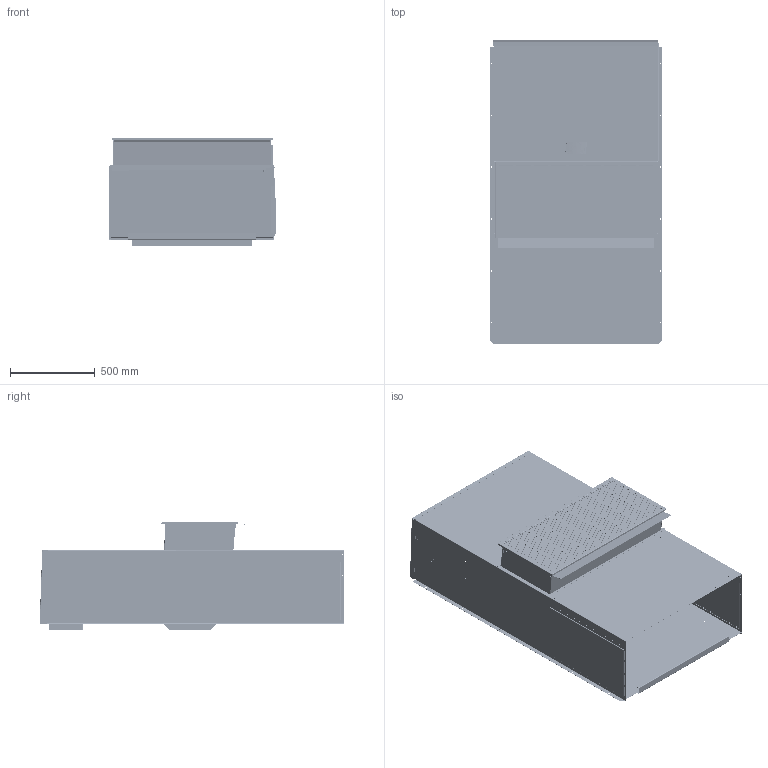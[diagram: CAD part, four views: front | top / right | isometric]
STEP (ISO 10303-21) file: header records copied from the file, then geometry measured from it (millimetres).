
FILE_DESCRIPTION (( 'STEP AP203' ), '1' );
FILE_NAME ('STEP_400_7.STEP', '2016-06-20T14:28:09', ( '' ), ( '' ), 'SwSTEP 2.0', 'SolidWorks 2016', '' );
FILE_SCHEMA (( 'CONFIG_CONTROL_DESIGN' ));
Products named in the file (1): STEP_400_7
Bounding box: 1015.56 x 1793.26 x 636.5 mm (x, y, z)
Volume: 14979301.4 mm3; surface area: 16022903.3 mm2
Topology: 74 solids, 78 shells, 11708 faces, 30736 edges, 19406 vertices
Faces by surface type: plane 5383, cylinder 3179, bspline 2701, cone 199, torus 162, sphere 84
Entity records: 487848 total; most frequent: CARTESIAN_POINT 215543, ORIENTED_EDGE 62600, DIRECTION 46902, EDGE_CURVE 31300, VERTEX_POINT 19773, LINE 17406, VECTOR 17406, AXIS2_PLACEMENT_3D 14748
